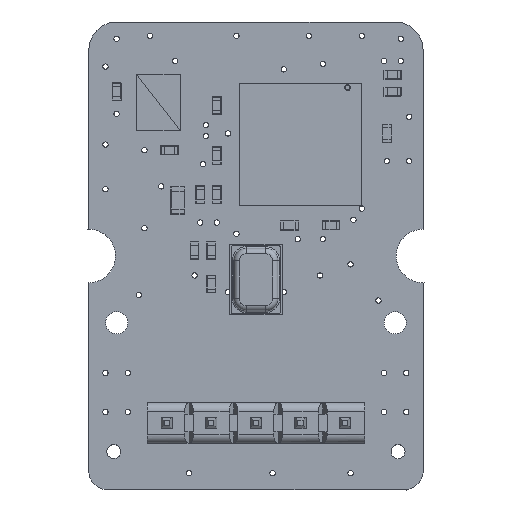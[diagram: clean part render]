
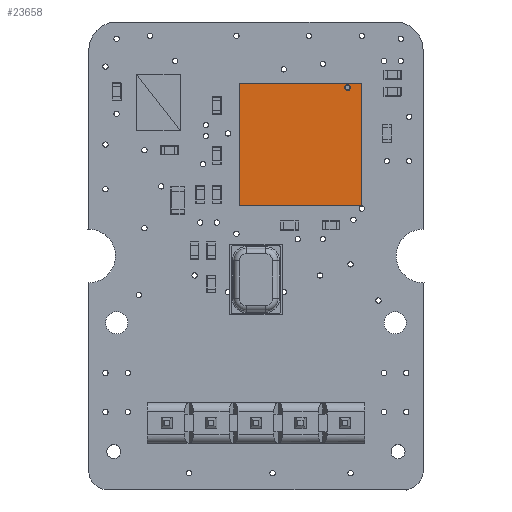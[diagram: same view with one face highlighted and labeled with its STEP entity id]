
A CAD part, top view. The second image highlights one B-rep face of the part: STEP entity #23658.
In plain terms, the highlighted planar face has unit normal (0, 0, 1).
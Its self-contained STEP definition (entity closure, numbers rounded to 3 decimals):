
#23658 = ADVANCED_FACE('',(#23659,#23670),#23704,.T.);
#23659 = FACE_BOUND('',#23660,.T.);
#23660 = EDGE_LOOP('',(#23661));
#23661 = ORIENTED_EDGE('',*,*,#23662,.F.);
#23662 = EDGE_CURVE('',#23663,#23663,#23665,.T.);
#23663 = VERTEX_POINT('',#23664);
#23664 = CARTESIAN_POINT('',(-2.523,-3.25,0.65));
#23665 = CIRCLE('',#23666,0.165);
#23666 = AXIS2_PLACEMENT_3D('',#23667,#23668,#23669);
#23667 = CARTESIAN_POINT('',(-2.688,-3.25,0.65));
#23668 = DIRECTION('',(0.,0.,1.));
#23669 = DIRECTION('',(1.,0.,0.));
#23670 = FACE_BOUND('',#23671,.T.);
#23671 = EDGE_LOOP('',(#23672,#23682,#23690,#23698));
#23672 = ORIENTED_EDGE('',*,*,#23673,.F.);
#23673 = EDGE_CURVE('',#23674,#23676,#23678,.T.);
#23674 = VERTEX_POINT('',#23675);
#23675 = CARTESIAN_POINT('',(-3.5,-3.5,0.65));
#23676 = VERTEX_POINT('',#23677);
#23677 = CARTESIAN_POINT('',(-3.5,3.5,0.65));
#23678 = LINE('',#23679,#23680);
#23679 = CARTESIAN_POINT('',(-3.5,-3.5,0.65));
#23680 = VECTOR('',#23681,1.);
#23681 = DIRECTION('',(0.,1.,0.));
#23682 = ORIENTED_EDGE('',*,*,#23683,.T.);
#23683 = EDGE_CURVE('',#23674,#23684,#23686,.T.);
#23684 = VERTEX_POINT('',#23685);
#23685 = CARTESIAN_POINT('',(3.5,-3.5,0.65));
#23686 = LINE('',#23687,#23688);
#23687 = CARTESIAN_POINT('',(-3.5,-3.5,0.65));
#23688 = VECTOR('',#23689,1.);
#23689 = DIRECTION('',(1.,0.,0.));
#23690 = ORIENTED_EDGE('',*,*,#23691,.T.);
#23691 = EDGE_CURVE('',#23684,#23692,#23694,.T.);
#23692 = VERTEX_POINT('',#23693);
#23693 = CARTESIAN_POINT('',(3.5,3.5,0.65));
#23694 = LINE('',#23695,#23696);
#23695 = CARTESIAN_POINT('',(3.5,-3.5,0.65));
#23696 = VECTOR('',#23697,1.);
#23697 = DIRECTION('',(0.,1.,0.));
#23698 = ORIENTED_EDGE('',*,*,#23699,.F.);
#23699 = EDGE_CURVE('',#23676,#23692,#23700,.T.);
#23700 = LINE('',#23701,#23702);
#23701 = CARTESIAN_POINT('',(-3.5,3.5,0.65));
#23702 = VECTOR('',#23703,1.);
#23703 = DIRECTION('',(1.,0.,0.));
#23704 = PLANE('',#23705);
#23705 = AXIS2_PLACEMENT_3D('',#23706,#23707,#23708);
#23706 = CARTESIAN_POINT('',(-3.5,-3.5,0.65));
#23707 = DIRECTION('',(0.,0.,1.));
#23708 = DIRECTION('',(1.,0.,0.));
